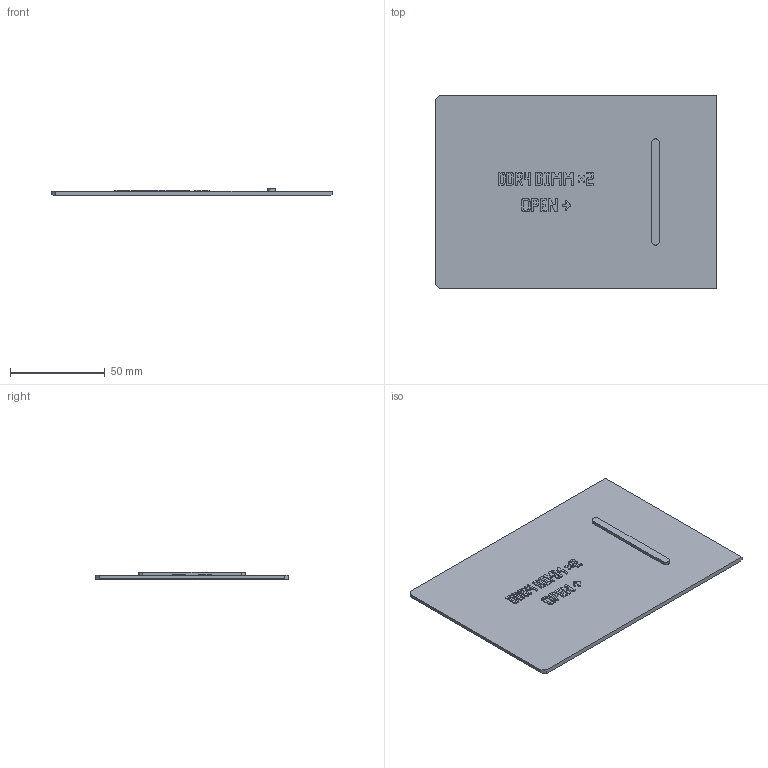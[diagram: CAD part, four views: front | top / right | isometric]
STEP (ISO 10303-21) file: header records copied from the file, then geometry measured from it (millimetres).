
FILE_DESCRIPTION(('Open CASCADE Model'),'2;1');
FILE_NAME('Open CASCADE Shape Model','2026-11-03T10:25:32',('Author'),( 'Open CASCADE'),'Open CASCADE STEP processor 8.0','build123d', 'Unknown');
FILE_SCHEMA(('AUTOMOTIVE_DESIGN { 1 0 10303 214 1 1 1 1 }'));
Products named in the file (1): COMPOUND
Bounding box: 147.7 x 101.5 x 4 mm (x, y, z)
Volume: 36358.6 mm3; surface area: 31525.7 mm2
Topology: 1 solids, 1 shells, 1486 faces, 4386 edges, 2924 vertices
Faces by surface type: plane 1484, cylinder 2
Entity records: 105518 total; most frequent: CARTESIAN_POINT 17609, DIRECTION 16116, LINE 13134, VECTOR 13134, ORIENTED_EDGE 8772, PCURVE 8772, DEFINITIONAL_REPRESENTATION 8772, EDGE_CURVE 4386
